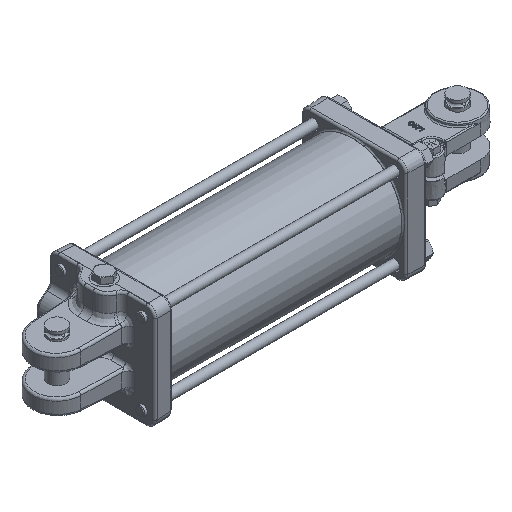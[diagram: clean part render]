
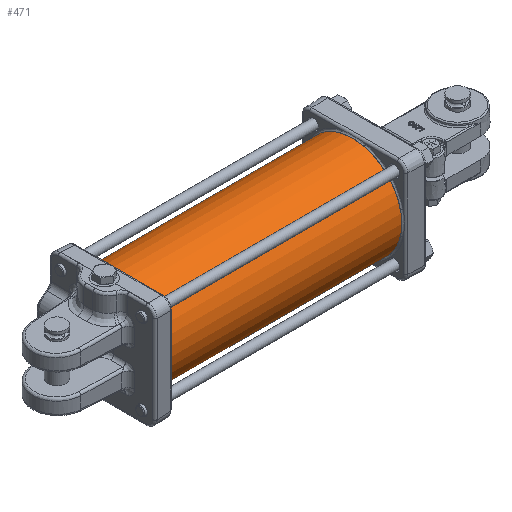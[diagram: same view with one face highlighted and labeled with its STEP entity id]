
A CAD part, isometric view. The second image highlights one B-rep face of the part: STEP entity #471.
In plain terms, the highlighted cylindrical face has radius 69.85 mm (diameter 139.7 mm), a full revolution.
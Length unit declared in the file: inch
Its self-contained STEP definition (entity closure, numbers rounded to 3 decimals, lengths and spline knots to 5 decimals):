
#210=CARTESIAN_POINT('',(-1.029,2.74946,0.0545));
#211=VERTEX_POINT('',#210);
#212=CARTESIAN_POINT('',(-1.029,2.74946,0.0545));
#213=CARTESIAN_POINT('',(-1.03584,2.74946,0.0545));
#214=CARTESIAN_POINT('',(-1.04314,2.74949,0.05313));
#215=CARTESIAN_POINT('',(-1.05657,2.74959,0.04757));
#216=CARTESIAN_POINT('',(-1.0627,2.74966,0.04338));
#217=CARTESIAN_POINT('',(-1.07238,2.7498,0.0337));
#218=CARTESIAN_POINT('',(-1.07657,2.74987,0.02757));
#219=CARTESIAN_POINT('',(-1.08213,2.74997,0.01414));
#220=CARTESIAN_POINT('',(-1.0835,2.75,0.00684));
#221=CARTESIAN_POINT('',(-1.0835,2.75,-0.00684));
#222=CARTESIAN_POINT('',(-1.08213,2.74997,-0.01414));
#223=CARTESIAN_POINT('',(-1.07657,2.74987,-0.02757));
#224=CARTESIAN_POINT('',(-1.07238,2.7498,-0.0337));
#225=CARTESIAN_POINT('',(-1.0627,2.74966,-0.04338));
#226=CARTESIAN_POINT('',(-1.05657,2.74959,-0.04757));
#227=CARTESIAN_POINT('',(-1.04314,2.74949,-0.05313));
#228=CARTESIAN_POINT('',(-1.03584,2.74946,-0.0545));
#229=CARTESIAN_POINT('',(-1.02216,2.74946,-0.0545));
#230=CARTESIAN_POINT('',(-1.01486,2.74949,-0.05313));
#231=CARTESIAN_POINT('',(-1.00143,2.74959,-0.04757));
#232=CARTESIAN_POINT('',(-0.9953,2.74966,-0.04338));
#233=CARTESIAN_POINT('',(-0.98562,2.7498,-0.0337));
#234=CARTESIAN_POINT('',(-0.98143,2.74987,-0.02757));
#235=CARTESIAN_POINT('',(-0.97587,2.74997,-0.01414));
#236=CARTESIAN_POINT('',(-0.9745,2.75,-0.00684));
#237=CARTESIAN_POINT('',(-0.9745,2.75,0.00684));
#238=CARTESIAN_POINT('',(-0.97587,2.74997,0.01414));
#239=CARTESIAN_POINT('',(-0.98143,2.74987,0.02757));
#240=CARTESIAN_POINT('',(-0.98562,2.7498,0.0337));
#241=CARTESIAN_POINT('',(-0.9953,2.74966,0.04338));
#242=CARTESIAN_POINT('',(-1.00143,2.74959,0.04757));
#243=CARTESIAN_POINT('',(-1.01486,2.74949,0.05313));
#244=CARTESIAN_POINT('',(-1.02216,2.74946,0.0545));
#245=CARTESIAN_POINT('',(-1.029,2.74946,0.0545));
#246=B_SPLINE_CURVE_WITH_KNOTS('',3,(#212,#213,#214,#215,#216,#217,#218,#219,#220,#221,#222,#223,#224,#225,#226,#227,#228,#229,#230,#231,#232,#233,#234,#235,#236,#237,#238,#239,#240,#241,#242,#243,#244,#245),.UNSPECIFIED.,.T.,.U.,(4,2,2,2,2,2,2,2,2,2,2,2,2,2,2,2,4),(0.0,0.05215,0.10429,0.15644,0.20858,0.26073,0.31288,0.36502,0.41717,0.46932,0.52146,0.57361,0.62575,0.6779,0.73005,0.78219,0.83434),.UNSPECIFIED.);
#247=EDGE_CURVE('',#211,#211,#246,.T.);
#298=CARTESIAN_POINT('',(-1.409,2.74983,0.031));
#299=VERTEX_POINT('',#298);
#300=CARTESIAN_POINT('',(-1.409,2.74983,0.031));
#301=CARTESIAN_POINT('',(-1.41289,2.74983,0.031));
#302=CARTESIAN_POINT('',(-1.41704,2.74983,0.03022));
#303=CARTESIAN_POINT('',(-1.42468,2.74987,0.02706));
#304=CARTESIAN_POINT('',(-1.42817,2.74989,0.02467));
#305=CARTESIAN_POINT('',(-1.43367,2.74993,0.01917));
#306=CARTESIAN_POINT('',(-1.43606,2.74996,0.01568));
#307=CARTESIAN_POINT('',(-1.43922,2.74999,0.00804));
#308=CARTESIAN_POINT('',(-1.44,2.75,0.00389));
#309=CARTESIAN_POINT('',(-1.44,2.75,-0.00389));
#310=CARTESIAN_POINT('',(-1.43922,2.74999,-0.00804));
#311=CARTESIAN_POINT('',(-1.43606,2.74996,-0.01568));
#312=CARTESIAN_POINT('',(-1.43367,2.74993,-0.01917));
#313=CARTESIAN_POINT('',(-1.42817,2.74989,-0.02467));
#314=CARTESIAN_POINT('',(-1.42468,2.74987,-0.02706));
#315=CARTESIAN_POINT('',(-1.41704,2.74983,-0.03022));
#316=CARTESIAN_POINT('',(-1.41289,2.74983,-0.031));
#317=CARTESIAN_POINT('',(-1.40511,2.74983,-0.031));
#318=CARTESIAN_POINT('',(-1.40096,2.74983,-0.03022));
#319=CARTESIAN_POINT('',(-1.39332,2.74987,-0.02706));
#320=CARTESIAN_POINT('',(-1.38983,2.74989,-0.02467));
#321=CARTESIAN_POINT('',(-1.38433,2.74993,-0.01917));
#322=CARTESIAN_POINT('',(-1.38194,2.74996,-0.01568));
#323=CARTESIAN_POINT('',(-1.37878,2.74999,-0.00804));
#324=CARTESIAN_POINT('',(-1.378,2.75,-0.00389));
#325=CARTESIAN_POINT('',(-1.378,2.75,0.00389));
#326=CARTESIAN_POINT('',(-1.37878,2.74999,0.00804));
#327=CARTESIAN_POINT('',(-1.38194,2.74996,0.01568));
#328=CARTESIAN_POINT('',(-1.38433,2.74993,0.01917));
#329=CARTESIAN_POINT('',(-1.38983,2.74989,0.02467));
#330=CARTESIAN_POINT('',(-1.39332,2.74987,0.02706));
#331=CARTESIAN_POINT('',(-1.40096,2.74983,0.03022));
#332=CARTESIAN_POINT('',(-1.40511,2.74983,0.031));
#333=CARTESIAN_POINT('',(-1.409,2.74983,0.031));
#334=B_SPLINE_CURVE_WITH_KNOTS('',3,(#300,#301,#302,#303,#304,#305,#306,#307,#308,#309,#310,#311,#312,#313,#314,#315,#316,#317,#318,#319,#320,#321,#322,#323,#324,#325,#326,#327,#328,#329,#330,#331,#332,#333),.UNSPECIFIED.,.T.,.U.,(4,2,2,2,2,2,2,2,2,2,2,2,2,2,2,2,4),(0.0,0.02966,0.05932,0.08898,0.11864,0.1483,0.17796,0.20762,0.23728,0.26695,0.29661,0.32627,0.35593,0.38559,0.41525,0.44491,0.47457),.UNSPECIFIED.);
#335=EDGE_CURVE('',#299,#299,#334,.T.);
#345=CARTESIAN_POINT('',(0.,2.75,0.0));
#346=VERTEX_POINT('',#345);
#347=CARTESIAN_POINT('',(0.,0.0,0.0));
#348=DIRECTION('',(1.0,0.0,0.0));
#349=DIRECTION('',(0.0,1.0,0.0));
#350=AXIS2_PLACEMENT_3D('',#347,#348,#349);
#351=CIRCLE('',#350,2.75);
#352=EDGE_CURVE('',#346,#346,#351,.T.);
#439=CARTESIAN_POINT('',(-12.84375,2.75,0.0));
#440=VERTEX_POINT('',#439);
#441=CARTESIAN_POINT('',(-12.84375,0.0,0.0));
#442=DIRECTION('',(1.0,0.0,0.0));
#443=DIRECTION('',(0.0,1.0,0.0));
#444=AXIS2_PLACEMENT_3D('',#441,#442,#443);
#445=CIRCLE('',#444,2.75);
#446=EDGE_CURVE('',#440,#440,#445,.T.);
#454=CARTESIAN_POINT('',(-6.42188,0.0,0.0));
#455=DIRECTION('',(1.0,0.0,0.0));
#456=DIRECTION('',(0.0,1.0,0.0));
#457=AXIS2_PLACEMENT_3D('',#454,#455,#456);
#458=CYLINDRICAL_SURFACE('',#457,2.75);
#459=ORIENTED_EDGE('',*,*,#352,.F.);
#460=EDGE_LOOP('',(#459));
#461=FACE_OUTER_BOUND('',#460,.T.);
#462=ORIENTED_EDGE('',*,*,#247,.T.);
#463=EDGE_LOOP('',(#462));
#464=FACE_BOUND('',#463,.T.);
#465=ORIENTED_EDGE('',*,*,#335,.T.);
#466=EDGE_LOOP('',(#465));
#467=FACE_BOUND('',#466,.T.);
#468=ORIENTED_EDGE('',*,*,#446,.T.);
#469=EDGE_LOOP('',(#468));
#470=FACE_BOUND('',#469,.T.);
#471=ADVANCED_FACE('',(#461,#464,#467,#470),#458,.T.);
